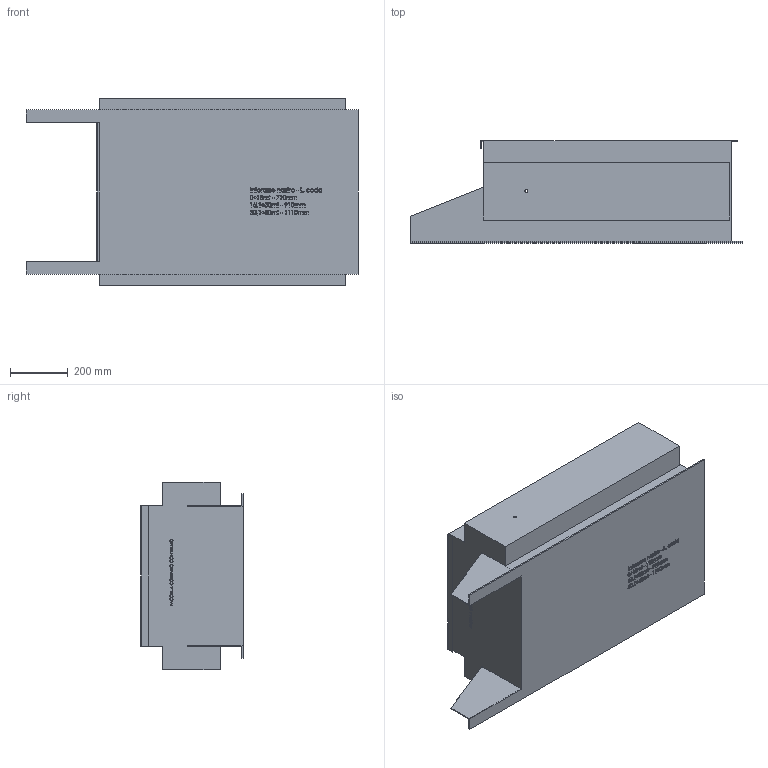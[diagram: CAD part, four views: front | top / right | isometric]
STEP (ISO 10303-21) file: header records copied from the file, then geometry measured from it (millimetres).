
FILE_DESCRIPTION (( 'STEP AP203' ), '1' );
FILE_NAME ('30752.step', '2019-03-14T14:31:34', ( 'PC' ), ( 'Hewlett-Packard Company' ), 'SwSTEP 2.0', 'SolidWorks 2016', '' );
FILE_SCHEMA (( 'CONFIG_CONTROL_DESIGN' ));
Length unit declared in the file: millimetre
Products named in the file (1): 30752
Bounding box: 1150 x 353.5 x 650 mm (x, y, z)
Volume: 176537431.4 mm3; surface area: 2587397.7 mm2
Topology: 1 solids, 1 shells, 1110 faces, 2964 edges, 1976 vertices
Faces by surface type: plane 679, bspline 429, cylinder 2
Entity records: 57931 total; most frequent: CARTESIAN_POINT 33072, ORIENTED_EDGE 5928, DIRECTION 3474, EDGE_CURVE 2964, VECTOR 2102, LINE 2102, VERTEX_POINT 1976, EDGE_LOOP 1232
